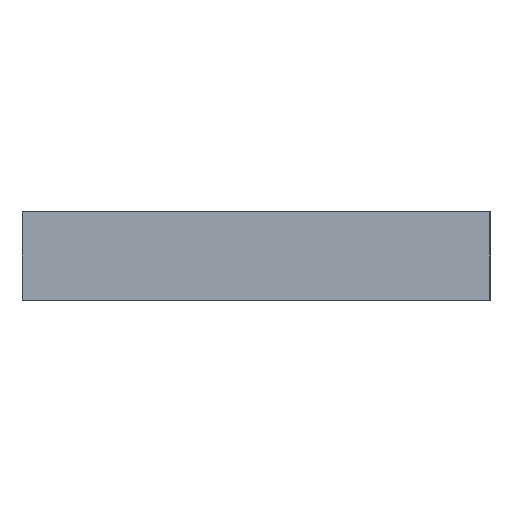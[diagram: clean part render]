
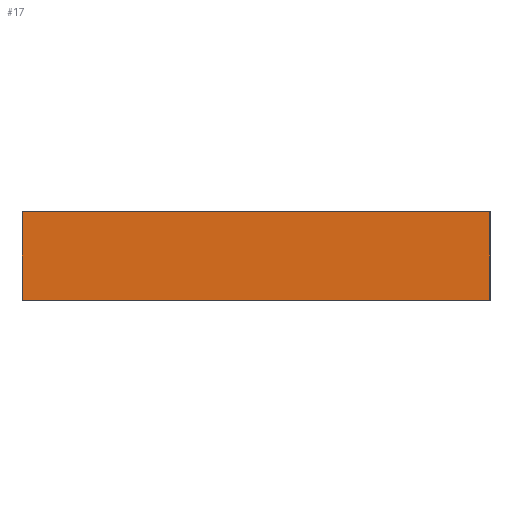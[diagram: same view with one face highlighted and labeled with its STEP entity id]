
A CAD part, left-side view. The second image highlights one B-rep face of the part: STEP entity #17.
In plain terms, the highlighted planar face has unit normal (-1, 0, 0).
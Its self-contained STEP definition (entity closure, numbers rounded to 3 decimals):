
#17 = ADVANCED_FACE('',(#18),#32,.F.);
#18 = FACE_BOUND('',#19,.F.);
#19 = EDGE_LOOP('',(#20,#55,#83,#111));
#20 = ORIENTED_EDGE('',*,*,#21,.F.);
#21 = EDGE_CURVE('',#22,#24,#26,.T.);
#22 = VERTEX_POINT('',#23);
#23 = CARTESIAN_POINT('',(-35.46,-15.95,-3.));
#24 = VERTEX_POINT('',#25);
#25 = CARTESIAN_POINT('',(-35.46,-15.95,3.));
#26 = SURFACE_CURVE('',#27,(#31,#43),.PCURVE_S1.);
#27 = LINE('',#28,#29);
#28 = CARTESIAN_POINT('',(-35.46,-15.95,-3.));
#29 = VECTOR('',#30,1.);
#30 = DIRECTION('',(0.,0.,1.));
#31 = PCURVE('',#32,#37);
#32 = PLANE('',#33);
#33 = AXIS2_PLACEMENT_3D('',#34,#35,#36);
#34 = CARTESIAN_POINT('',(-35.46,-15.95,-3.));
#35 = DIRECTION('',(1.,0.,0.));
#36 = DIRECTION('',(0.,0.,1.));
#37 = DEFINITIONAL_REPRESENTATION('',(#38),#42);
#38 = LINE('',#39,#40);
#39 = CARTESIAN_POINT('',(0.,0.));
#40 = VECTOR('',#41,1.);
#41 = DIRECTION('',(1.,0.));
#42 = ( GEOMETRIC_REPRESENTATION_CONTEXT(2) 
PARAMETRIC_REPRESENTATION_CONTEXT() REPRESENTATION_CONTEXT('2D SPACE',''
  ) );
#43 = PCURVE('',#44,#49);
#44 = PLANE('',#45);
#45 = AXIS2_PLACEMENT_3D('',#46,#47,#48);
#46 = CARTESIAN_POINT('',(-35.46,-15.95,-3.));
#47 = DIRECTION('',(0.,1.,0.));
#48 = DIRECTION('',(0.,0.,1.));
#49 = DEFINITIONAL_REPRESENTATION('',(#50),#54);
#50 = LINE('',#51,#52);
#51 = CARTESIAN_POINT('',(0.,0.));
#52 = VECTOR('',#53,1.);
#53 = DIRECTION('',(1.,0.));
#54 = ( GEOMETRIC_REPRESENTATION_CONTEXT(2) 
PARAMETRIC_REPRESENTATION_CONTEXT() REPRESENTATION_CONTEXT('2D SPACE',''
  ) );
#55 = ORIENTED_EDGE('',*,*,#56,.T.);
#56 = EDGE_CURVE('',#22,#57,#59,.T.);
#57 = VERTEX_POINT('',#58);
#58 = CARTESIAN_POINT('',(-35.46,15.95,-3.));
#59 = SURFACE_CURVE('',#60,(#64,#71),.PCURVE_S1.);
#60 = LINE('',#61,#62);
#61 = CARTESIAN_POINT('',(-35.46,-15.95,-3.));
#62 = VECTOR('',#63,1.);
#63 = DIRECTION('',(0.,1.,0.));
#64 = PCURVE('',#32,#65);
#65 = DEFINITIONAL_REPRESENTATION('',(#66),#70);
#66 = LINE('',#67,#68);
#67 = CARTESIAN_POINT('',(0.,0.));
#68 = VECTOR('',#69,1.);
#69 = DIRECTION('',(0.,-1.));
#70 = ( GEOMETRIC_REPRESENTATION_CONTEXT(2) 
PARAMETRIC_REPRESENTATION_CONTEXT() REPRESENTATION_CONTEXT('2D SPACE',''
  ) );
#71 = PCURVE('',#72,#77);
#72 = PLANE('',#73);
#73 = AXIS2_PLACEMENT_3D('',#74,#75,#76);
#74 = CARTESIAN_POINT('',(-35.46,-15.95,-3.));
#75 = DIRECTION('',(0.,0.,1.));
#76 = DIRECTION('',(1.,0.,0.));
#77 = DEFINITIONAL_REPRESENTATION('',(#78),#82);
#78 = LINE('',#79,#80);
#79 = CARTESIAN_POINT('',(0.,0.));
#80 = VECTOR('',#81,1.);
#81 = DIRECTION('',(0.,1.));
#82 = ( GEOMETRIC_REPRESENTATION_CONTEXT(2) 
PARAMETRIC_REPRESENTATION_CONTEXT() REPRESENTATION_CONTEXT('2D SPACE',''
  ) );
#83 = ORIENTED_EDGE('',*,*,#84,.T.);
#84 = EDGE_CURVE('',#57,#85,#87,.T.);
#85 = VERTEX_POINT('',#86);
#86 = CARTESIAN_POINT('',(-35.46,15.95,3.));
#87 = SURFACE_CURVE('',#88,(#92,#99),.PCURVE_S1.);
#88 = LINE('',#89,#90);
#89 = CARTESIAN_POINT('',(-35.46,15.95,-3.));
#90 = VECTOR('',#91,1.);
#91 = DIRECTION('',(0.,0.,1.));
#92 = PCURVE('',#32,#93);
#93 = DEFINITIONAL_REPRESENTATION('',(#94),#98);
#94 = LINE('',#95,#96);
#95 = CARTESIAN_POINT('',(0.,-31.9));
#96 = VECTOR('',#97,1.);
#97 = DIRECTION('',(1.,0.));
#98 = ( GEOMETRIC_REPRESENTATION_CONTEXT(2) 
PARAMETRIC_REPRESENTATION_CONTEXT() REPRESENTATION_CONTEXT('2D SPACE',''
  ) );
#99 = PCURVE('',#100,#105);
#100 = PLANE('',#101);
#101 = AXIS2_PLACEMENT_3D('',#102,#103,#104);
#102 = CARTESIAN_POINT('',(-35.46,15.95,-3.));
#103 = DIRECTION('',(0.,1.,0.));
#104 = DIRECTION('',(0.,0.,1.));
#105 = DEFINITIONAL_REPRESENTATION('',(#106),#110);
#106 = LINE('',#107,#108);
#107 = CARTESIAN_POINT('',(0.,0.));
#108 = VECTOR('',#109,1.);
#109 = DIRECTION('',(1.,0.));
#110 = ( GEOMETRIC_REPRESENTATION_CONTEXT(2) 
PARAMETRIC_REPRESENTATION_CONTEXT() REPRESENTATION_CONTEXT('2D SPACE',''
  ) );
#111 = ORIENTED_EDGE('',*,*,#112,.F.);
#112 = EDGE_CURVE('',#24,#85,#113,.T.);
#113 = SURFACE_CURVE('',#114,(#118,#125),.PCURVE_S1.);
#114 = LINE('',#115,#116);
#115 = CARTESIAN_POINT('',(-35.46,-15.95,3.));
#116 = VECTOR('',#117,1.);
#117 = DIRECTION('',(0.,1.,0.));
#118 = PCURVE('',#32,#119);
#119 = DEFINITIONAL_REPRESENTATION('',(#120),#124);
#120 = LINE('',#121,#122);
#121 = CARTESIAN_POINT('',(6.,0.));
#122 = VECTOR('',#123,1.);
#123 = DIRECTION('',(0.,-1.));
#124 = ( GEOMETRIC_REPRESENTATION_CONTEXT(2) 
PARAMETRIC_REPRESENTATION_CONTEXT() REPRESENTATION_CONTEXT('2D SPACE',''
  ) );
#125 = PCURVE('',#126,#131);
#126 = PLANE('',#127);
#127 = AXIS2_PLACEMENT_3D('',#128,#129,#130);
#128 = CARTESIAN_POINT('',(-35.46,-15.95,3.));
#129 = DIRECTION('',(0.,0.,1.));
#130 = DIRECTION('',(1.,0.,0.));
#131 = DEFINITIONAL_REPRESENTATION('',(#132),#136);
#132 = LINE('',#133,#134);
#133 = CARTESIAN_POINT('',(0.,0.));
#134 = VECTOR('',#135,1.);
#135 = DIRECTION('',(0.,1.));
#136 = ( GEOMETRIC_REPRESENTATION_CONTEXT(2) 
PARAMETRIC_REPRESENTATION_CONTEXT() REPRESENTATION_CONTEXT('2D SPACE',''
  ) );
